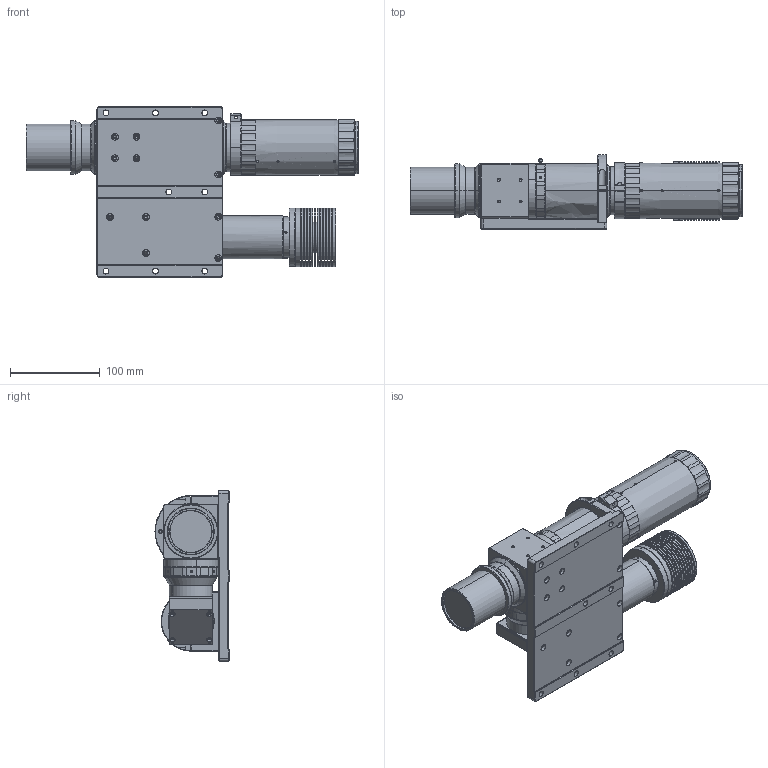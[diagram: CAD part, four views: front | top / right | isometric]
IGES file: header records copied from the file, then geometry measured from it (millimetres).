
Start section: SolidWorks IGES file using analytic representation for surfaces
Global section: file name: E:\图纸\镜头\DTCA\35F\DTCA35F-11C-G-M58-ALV3-V6\A2.0\3D\给客户的3D\DTCA35F-11CL30-G-M58-ALV3.IGS; native system: SolidWorks 2017; preprocessor: SolidWorks 2017; author: gc; date: 240318.110627; units: millimetre
Bounding box: 369.4 x 82.53 x 190 mm (x, y, z)
Surface area: 309613.1 mm2 (no closed solid volume)
Topology: 0 solids, 0 shells, 1645 faces, 27825 edges, 27771 vertices
Faces by surface type: revolution 1136, bspline 509
